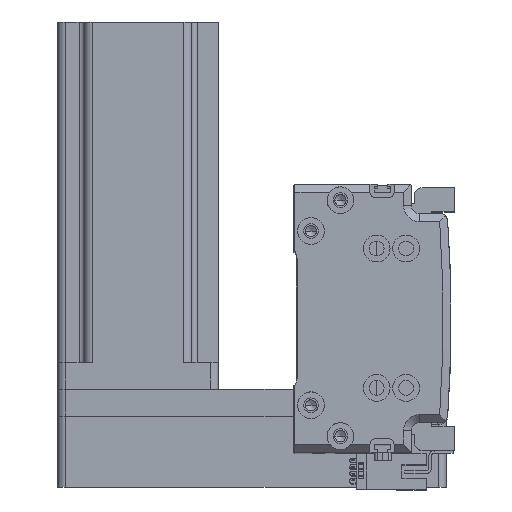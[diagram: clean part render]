
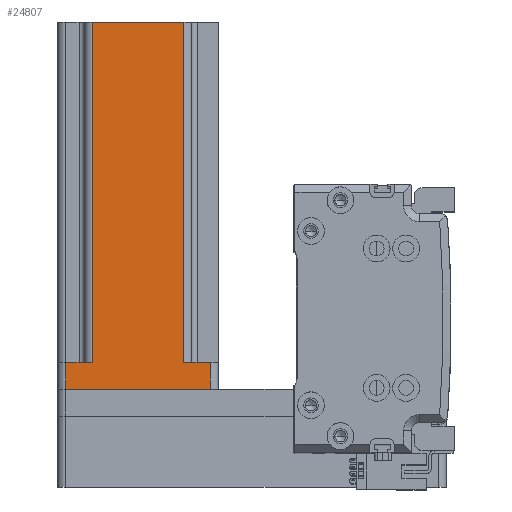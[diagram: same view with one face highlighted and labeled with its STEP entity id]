
A CAD part, top view. The second image highlights one B-rep face of the part: STEP entity #24807.
In plain terms, the highlighted planar face has unit normal (0, 0, 1) as drawn and (0, 1, 0) by its records, which use the part's own axes.
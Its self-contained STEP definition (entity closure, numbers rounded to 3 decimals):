
#2273 = CARTESIAN_POINT ( 'NONE',  ( -27., 30., 10. ) ) ;
#3424 = EDGE_CURVE ( 'NONE', #29777, #36128, #8662, .T. ) ;
#4393 = CARTESIAN_POINT ( 'NONE',  ( -17., 30., 137. ) ) ;
#4809 = DIRECTION ( 'NONE',  ( -1., 0., 0. ) ) ;
#6302 = ORIENTED_EDGE ( 'NONE', *, *, #35292, .F. ) ;
#6628 = ORIENTED_EDGE ( 'NONE', *, *, #13142, .T. ) ;
#8140 = VECTOR ( 'NONE', #23031, 1000. ) ;
#8238 = VECTOR ( 'NONE', #12087, 1000. ) ;
#8654 = DIRECTION ( 'NONE',  ( 0., -1., 0. ) ) ;
#8662 = LINE ( 'NONE', #20265, #43001 ) ;
#9361 = CARTESIAN_POINT ( 'NONE',  ( 17., 30., 137. ) ) ;
#9744 = CARTESIAN_POINT ( 'NONE',  ( 30., 30., 137. ) ) ;
#10459 = DIRECTION ( 'NONE',  ( 0., 0., 1. ) ) ;
#11692 = ORIENTED_EDGE ( 'NONE', *, *, #22698, .F. ) ;
#12087 = DIRECTION ( 'NONE',  ( 1., 0., 0. ) ) ;
#12900 = VERTEX_POINT ( 'NONE', #20416 ) ;
#12990 = CARTESIAN_POINT ( 'NONE',  ( 27., 30., 137. ) ) ;
#13107 = CARTESIAN_POINT ( 'NONE',  ( 27., 30., 10. ) ) ;
#13142 = EDGE_CURVE ( 'NONE', #12900, #18087, #25133, .T. ) ;
#13601 = VERTEX_POINT ( 'NONE', #4393 ) ;
#13658 = VECTOR ( 'NONE', #4809, 1000. ) ;
#15265 = EDGE_CURVE ( 'NONE', #26414, #13601, #40893, .T. ) ;
#15714 = VECTOR ( 'NONE', #21608, 1000. ) ;
#16521 = DIRECTION ( 'NONE',  ( 0., 0., -1. ) ) ;
#16662 = DIRECTION ( 'NONE',  ( 0., 0., -1. ) ) ;
#17223 = AXIS2_PLACEMENT_3D ( 'NONE', #29893, #8654, #33475 ) ;
#18087 = VERTEX_POINT ( 'NONE', #2273 ) ;
#18641 = ORIENTED_EDGE ( 'NONE', *, *, #20992, .T. ) ;
#19470 = CARTESIAN_POINT ( 'NONE',  ( 27., 30., 0. ) ) ;
#19903 = FACE_OUTER_BOUND ( 'NONE', #28515, .T. ) ;
#20265 = CARTESIAN_POINT ( 'NONE',  ( 17., 30., 137. ) ) ;
#20416 = CARTESIAN_POINT ( 'NONE',  ( -27., 30., 0. ) ) ;
#20992 = EDGE_CURVE ( 'NONE', #25591, #12900, #41922, .T. ) ;
#21525 = LINE ( 'NONE', #12990, #39277 ) ;
#21608 = DIRECTION ( 'NONE',  ( 0., 0., 1. ) ) ;
#22018 = VECTOR ( 'NONE', #10459, 1000. ) ;
#22698 = EDGE_CURVE ( 'NONE', #29777, #13601, #36184, .T. ) ;
#23031 = DIRECTION ( 'NONE',  ( -1., 0., 0. ) ) ;
#24807 = ADVANCED_FACE ( 'NONE', ( #19903 ), #36545, .F. ) ;
#24947 = EDGE_CURVE ( 'NONE', #36258, #25591, #21525, .T. ) ;
#25133 = LINE ( 'NONE', #25199, #15714 ) ;
#25199 = CARTESIAN_POINT ( 'NONE',  ( -27., 30., 137. ) ) ;
#25591 = VERTEX_POINT ( 'NONE', #19470 ) ;
#26414 = VERTEX_POINT ( 'NONE', #43207 ) ;
#26751 = VECTOR ( 'NONE', #45164, 1000. ) ;
#27061 = ORIENTED_EDGE ( 'NONE', *, *, #3424, .T. ) ;
#27094 = LINE ( 'NONE', #29907, #8238 ) ;
#28515 = EDGE_LOOP ( 'NONE', ( #31708, #40554, #11692, #27061, #6302, #39970, #18641, #6628 ) ) ;
#29596 = CARTESIAN_POINT ( 'NONE',  ( 30., 30., 0. ) ) ;
#29777 = VERTEX_POINT ( 'NONE', #9361 ) ;
#29893 = CARTESIAN_POINT ( 'NONE',  ( 30., 30., 137. ) ) ;
#29907 = CARTESIAN_POINT ( 'NONE',  ( -20., 30., 10. ) ) ;
#31692 = CARTESIAN_POINT ( 'NONE',  ( -17., 30., 137. ) ) ;
#31708 = ORIENTED_EDGE ( 'NONE', *, *, #37245, .T. ) ;
#33475 = DIRECTION ( 'NONE',  ( 1., 0., 0. ) ) ;
#33615 = CARTESIAN_POINT ( 'NONE',  ( 20., 30., 10. ) ) ;
#33749 = CARTESIAN_POINT ( 'NONE',  ( 17., 30., 10. ) ) ;
#35292 = EDGE_CURVE ( 'NONE', #36258, #36128, #36417, .T. ) ;
#36128 = VERTEX_POINT ( 'NONE', #33749 ) ;
#36184 = LINE ( 'NONE', #9744, #26751 ) ;
#36258 = VERTEX_POINT ( 'NONE', #13107 ) ;
#36417 = LINE ( 'NONE', #33615, #8140 ) ;
#36545 = PLANE ( 'NONE',  #17223 ) ;
#37245 = EDGE_CURVE ( 'NONE', #18087, #26414, #27094, .T. ) ;
#39277 = VECTOR ( 'NONE', #16521, 1000. ) ;
#39970 = ORIENTED_EDGE ( 'NONE', *, *, #24947, .T. ) ;
#40554 = ORIENTED_EDGE ( 'NONE', *, *, #15265, .T. ) ;
#40893 = LINE ( 'NONE', #31692, #22018 ) ;
#41922 = LINE ( 'NONE', #29596, #13658 ) ;
#43001 = VECTOR ( 'NONE', #16662, 1000. ) ;
#43207 = CARTESIAN_POINT ( 'NONE',  ( -17., 30., 10. ) ) ;
#45164 = DIRECTION ( 'NONE',  ( -1., 0., 0. ) ) ;
